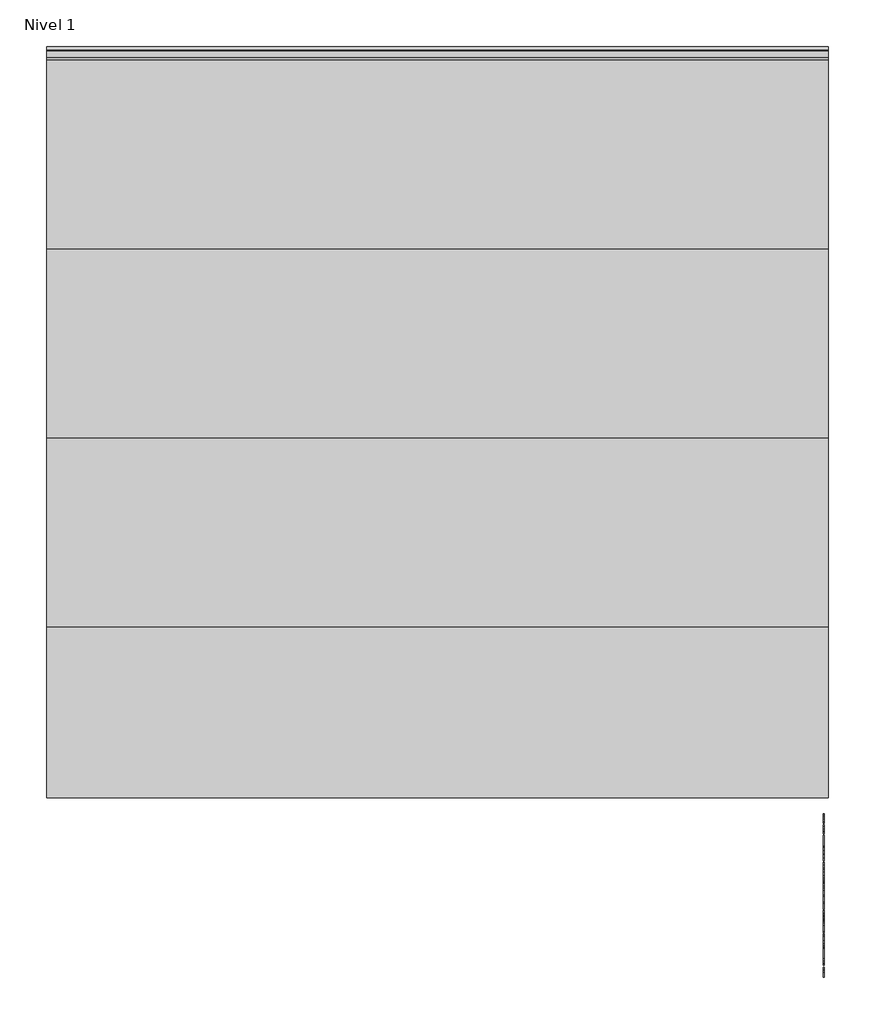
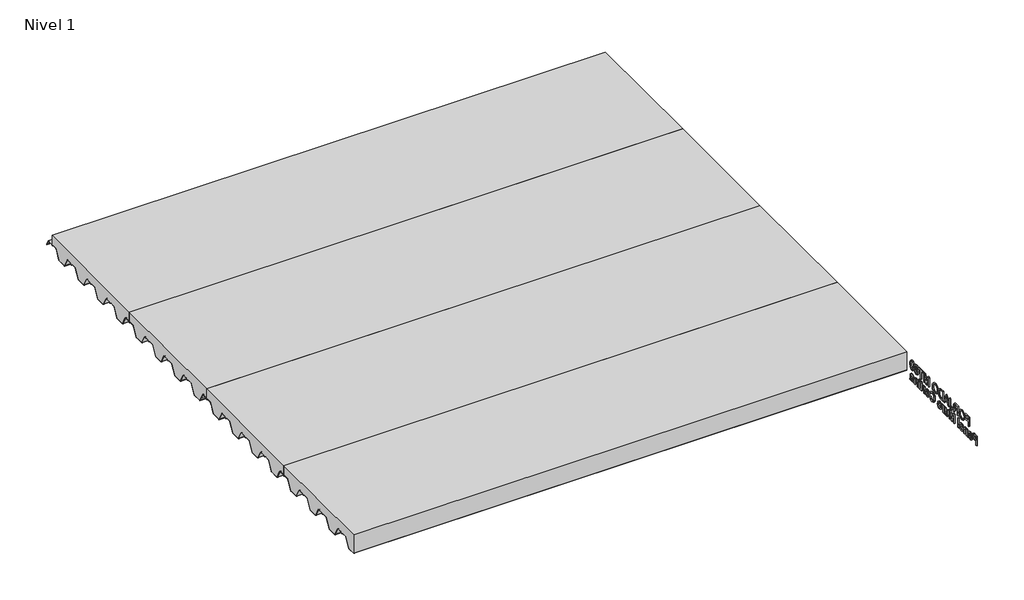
# One storey: 4 plates, 1 proxy.
"""IFC4 building model written with IfcOpenShell, lengths in millimetres."""

from ifc_helpers import new_model, si_unit, frame, origin, place, context, project, spatial, polyline, outline, extrude, transform, mapped, element, save
from components import plate_d779454f, plate_5dbb44cf

model = new_model("IFC4")

# Units and contexts
model_context = context("Model", 3, world=origin())
ifc_project = project(units=[si_unit("LENGTHUNIT", "METRE", prefix="MILLI")], contexts=[model_context])

# Site, building, storey
site = spatial("IfcSite", under=ifc_project)
building = spatial("IfcBuilding", under=site)
storey = spatial("IfcBuildingStorey", under=building, Name="Nivel 1", Elevation=0.0)

# Proxy
placement = place(None, origin())
element("IfcBuildingElementProxy", 1, Name="100mm Arial", ObjectType="100mm Arial", at=placement, inside=storey, context=model_context, shape_type="SweptSolid", body=[
    extrude(outline(polyline([(14753.317825, -1467.141573), (14753.317825, -1406.8677869), (14793.814275, -1406.8677869), (14793.814275, -1414.4020102), (14760.8520482, -1414.4020102), (14760.8520482, -1432.2957904), (14789.1053854, -1432.2957904), (14789.1053854, -1439.8300137), (14760.8520482, -1439.8300137), (14760.8520482, -1467.141573), (14753.317825, -1467.141573)])), frame((9557.0230098, 0.0, 0.0), z_axis=(1.0, 0.0, 0.0), x_axis=(0.0, 1.0, 0.0)), (0.0, 0.0, 1.0), 5.0),
    extrude(outline(polyline([(14801.3484982, -1437.7993051), (14803.3571339, -1424.4709404), (14809.383041, -1414.3872949), (14818.5837697, -1408.0413305), (14830.1168703, -1405.926009), (14845.1117404, -1409.8991346), (14855.294714, -1420.9797403), (14858.7969506, -1437.1076869), (14855.110773, -1453.4563628), (14844.6629244, -1464.3751004), (14830.0727244, -1468.0833509), (14814.9159862, -1463.9851455), (14804.7918737, -1452.8015329), (14801.3484982, -1437.7993051)]), holes=[polyline([(14808.8827215, -1437.8728815), (14810.3891983, -1447.301697), (14814.9086286, -1454.4864324), (14821.7015696, -1459.0334539), (14830.0285786, -1460.5491277), (14838.4769886, -1459.0187386), (14845.2809661, -1454.4275713), (14849.767287, -1447.0221067), (14851.2627274, -1437.0488258), (14848.7022687, -1424.6144144), (14841.2195489, -1416.3812153), (14830.1610161, -1413.4602323), (14815.166146, -1419.0888268), (14810.4535776, -1426.5991378), (14808.8827215, -1437.8728815)])]), frame((9557.0230098, 0.0, 0.0), z_axis=(1.0, 0.0, 0.0), x_axis=(0.0, 1.0, 0.0)), (0.0, 0.0, 1.0), 5.0),
    extrude(outline(polyline([(14869.1565076, -1467.141573), (14869.1565076, -1406.8677869), (14895.1289765, -1406.8677869), (14907.1881483, -1408.4938254), (14913.7805936, -1414.2474998), (14916.245403, -1423.3636156), (14912.1619128, -1434.2234921), (14899.5435604, -1439.8300137), (14903.8257068, -1443.05266), (14909.9325479, -1450.8076124), (14919.9830841, -1467.141573), (14911.2274926, -1467.141573), (14903.3842484, -1454.6483005), (14897.7188657, -1446.3783132), (14893.7383825, -1442.4714064), (14890.1552119, -1441.0366667), (14885.7847738, -1440.7717916), (14876.6907309, -1440.7717916), (14876.6907309, -1467.141573), (14869.1565076, -1467.141573)]), holes=[polyline([(14876.6907309, -1433.2375684), (14893.5544415, -1433.2375684), (14902.1555226, -1432.1707106), (14907.0409955, -1428.7567657), (14908.7111797, -1423.6432059), (14905.5253216, -1417.0066147), (14895.4527126, -1414.4020102), (14876.6907309, -1414.4020102), (14876.6907309, -1433.2375684)])]), frame((9557.0230098, 0.0, 0.0), z_axis=(1.0, 0.0, 0.0), x_axis=(0.0, 1.0, 0.0)), (0.0, 0.0, 1.0), 5.0),
    extrude(outline(polyline([(14925.6631821, -1450.2190013), (14933.1974053, -1449.2477928), (14935.7725793, -1458.1505371), (14942.1295802, -1460.5491277), (14947.2872857, -1459.1879643), (14950.2744875, -1455.4797138), (14951.0911856, -1448.0117093), (14951.0911856, -1406.8677869), (14958.6254088, -1406.8677869), (14958.6254088, -1447.8792718), (14956.8080718, -1459.5852768), (14951.0396821, -1465.9054895), (14941.7764134, -1468.0833509), (14929.6951687, -1463.587833), (14925.6631821, -1450.2190013)])), frame((9557.0230098, 0.0, 0.0), z_axis=(1.0, 0.0, 0.0), x_axis=(0.0, 1.0, 0.0)), (0.0, 0.0, 1.0), 5.0),
    extrude(outline(polyline([(14964.7911111, -1467.141573), (14988.8505935, -1406.8677869), (14995.2664555, -1406.8677869), (15019.325938, -1467.141573), (15011.3649717, -1467.141573), (15004.4635054, -1448.3060149), (14979.6388284, -1448.3060149), (14972.7520774, -1467.141573), (14964.7911111, -1467.141573)]), holes=[polyline([(14982.405301, -1440.7717916), (15001.7117481, -1440.7717916), (14996.2818099, -1425.9535049), (14992.0585245, -1414.4020102), (14988.3061282, -1424.6585602), (14982.405301, -1440.7717916)])]), frame((9557.0230098, 0.0, 0.0), z_axis=(1.0, 0.0, 0.0), x_axis=(0.0, 1.0, 0.0)), (0.0, 0.0, 1.0), 5.0),
    extrude(outline(polyline([(15027.3751961, -1467.141573), (15027.3751961, -1406.8677869), (15048.1678865, -1406.8677869), (15058.924756, -1407.7359884), (15067.7833544, -1412.0475654), (15074.9202651, -1422.3482613), (15077.2894252, -1436.6809438), (15075.6854597, -1448.8431226), (15071.5651813, -1457.620787), (15066.0616667, -1463.0875134), (15058.8585372, -1466.1115034), (15049.1685255, -1467.141573), (15027.3751961, -1467.141573)]), holes=[polyline([(15034.9094193, -1459.6073498), (15048.2414629, -1459.6073498), (15057.9388322, -1458.5184191), (15063.5306386, -1455.4429256), (15068.1144482, -1447.9602058), (15069.7552019, -1436.5632216), (15066.5399133, -1422.2894002), (15058.7187421, -1415.6086631), (15048.0354489, -1414.4020102), (15034.9094193, -1414.4020102), (15034.9094193, -1459.6073498)])]), frame((9557.0230098, 0.0, 0.0), z_axis=(1.0, 0.0, 0.0), x_axis=(0.0, 1.0, 0.0)), (0.0, 0.0, 1.0), 5.0),
    extrude(outline(polyline([(15084.8236485, -1437.7993051), (15086.8322841, -1424.4709404), (15092.8581912, -1414.3872949), (15102.0589199, -1408.0413305), (15113.5920205, -1405.926009), (15128.5868906, -1409.8991346), (15138.7698642, -1420.9797403), (15142.2721008, -1437.1076869), (15138.5859232, -1453.4563628), (15128.1380746, -1464.3751004), (15113.5478746, -1468.0833509), (15098.3911364, -1463.9851455), (15088.2670239, -1452.8015329), (15084.8236485, -1437.7993051)]), holes=[polyline([(15092.3578717, -1437.8728815), (15093.8643485, -1447.301697), (15098.3837788, -1454.4864324), (15105.1767198, -1459.0334539), (15113.5037288, -1460.5491277), (15121.9521388, -1459.0187386), (15128.7561163, -1454.4275713), (15133.2424372, -1447.0221067), (15134.7378776, -1437.0488258), (15132.1774189, -1424.6144144), (15124.6946991, -1416.3812153), (15113.6361663, -1413.4602323), (15098.6412962, -1419.0888268), (15093.9287278, -1426.5991378), (15092.3578717, -1437.8728815)])]), frame((9557.0230098, 0.0, 0.0), z_axis=(1.0, 0.0, 0.0), x_axis=(0.0, 1.0, 0.0)), (0.0, 0.0, 1.0), 5.0),
    extrude(outline(polyline([(15176.1761055, -1467.141573), (15176.1761055, -1406.8677869), (15189.140267, -1406.8677869), (15201.4716715, -1449.3507997), (15203.9585538, -1458.2241135), (15206.65145, -1448.6150358), (15218.7768405, -1406.8677869), (15231.741002, -1406.8677869), (15231.741002, -1467.141573), (15224.2067788, -1467.141573), (15224.2067788, -1414.4020102), (15209.0647559, -1467.141573), (15198.8523517, -1467.141573), (15183.7103288, -1414.4020102), (15183.7103288, -1467.141573), (15176.1761055, -1467.141573)])), frame((9557.0230098, 0.0, 0.0), z_axis=(1.0, 0.0, 0.0), x_axis=(0.0, 1.0, 0.0)), (0.0, 0.0, 1.0), 5.0),
    extrude(outline(polyline([(15259.9943393, -1467.141573), (15259.9943393, -1414.4020102), (15240.2170032, -1414.4020102), (15240.2170032, -1406.8677869), (15287.3058986, -1406.8677869), (15287.3058986, -1414.4020102), (15267.5285625, -1414.4020102), (15267.5285625, -1467.141573), (15259.9943393, -1467.141573)])), frame((9557.0230098, 0.0, 0.0), z_axis=(1.0, 0.0, 0.0), x_axis=(0.0, 1.0, 0.0)), (0.0, 0.0, 1.0), 5.0),
    extrude(outline(polyline([(15331.5694603, -1422.8780114), (15324.035237, -1423.8197893), (15321.1804727, -1417.5363648), (15313.6315342, -1414.4020102), (15306.8330749, -1416.2267049), (15301.6900846, -1423.0766676), (15299.5490114, -1436.5043605), (15306.1929602, -1430.4931687), (15314.4261593, -1428.5286788), (15327.2284527, -1433.8997559), (15332.5112382, -1447.7762648), (15330.0243559, -1458.17261), (15323.1817508, -1465.5302499), (15313.307798, -1468.0833509), (15304.7600599, -1466.3910938), (15297.9524035, -1461.3143222), (15293.499192, -1452.3527168), (15292.0147881, -1439.005958), (15293.6628995, -1424.0000515), (15298.6072335, -1413.7398226), (15305.3578681, -1408.5857959), (15314.1024231, -1406.8677869), (15326.0070845, -1411.1205028), (15331.5694603, -1422.8780114)]), holes=[polyline([(15299.5490114, -1447.6585426), (15301.2927721, -1454.1847692), (15305.9280852, -1458.9230893), (15312.7191868, -1460.5491277), (15321.5998582, -1457.1793286), (15324.9770149, -1448.0264246), (15321.644004, -1439.2634754), (15312.4101659, -1436.0629021), (15303.2940501, -1439.2634754), (15299.5490114, -1447.6585426)])]), frame((9557.0230098, 0.0, 0.0), z_axis=(1.0, 0.0, 0.0), x_axis=(0.0, 1.0, 0.0)), (0.0, 0.0, 1.0), 5.0),
    extrude(outline(polyline([(15339.1036835, -1437.4902842), (15341.3183331, -1420.148327), (15347.8960632, -1410.1492943), (15358.8810196, -1406.8677869), (15367.6807569, -1408.8102039), (15373.7581675, -1414.4093678), (15377.2898346, -1423.3268274), (15378.6583556, -1437.4902842), (15376.4657789, -1454.7586651), (15369.9101218, -1464.7797706), (15358.8810196, -1468.0833509), (15351.0524907, -1466.6486112), (15345.1075177, -1462.3443918), (15340.6046421, -1452.1503817), (15339.1036835, -1437.4902842)]), holes=[polyline([(15346.6379068, -1437.4755689), (15350.1695739, -1456.1860472), (15358.8810196, -1460.5491277), (15367.5924652, -1456.1713319), (15371.1241324, -1437.4755689), (15367.7101875, -1418.9784622), (15358.7927279, -1414.4020102), (15350.2872962, -1418.4339969), (15346.6379068, -1437.4755689)])]), frame((9557.0230098, 0.0, 0.0), z_axis=(1.0, 0.0, 0.0), x_axis=(0.0, 1.0, 0.0)), (0.0, 0.0, 1.0), 5.0),
    extrude(outline(polyline([(14669.4995912, -1540.3264637), (14669.4995912, -1480.0526776), (14691.8373859, -1480.0526776), (14700.8431372, -1480.6265736), (14708.1639889, -1483.4445496), (14712.9096666, -1489.2718004), (14714.7049307, -1497.4902842), (14709.856246, -1510.5133068), (14703.0559474, -1514.5085053), (14692.3524207, -1515.8402381), (14677.0338144, -1515.8402381), (14677.0338144, -1540.3264637), (14669.4995912, -1540.3264637)]), holes=[polyline([(14677.0338144, -1508.3060149), (14692.7938791, -1508.3060149), (14703.8892001, -1505.5395423), (14707.1707075, -1497.7551593), (14705.2356482, -1491.5158806), (14700.151519, -1488.1019357), (14692.6172958, -1487.5869009), (14677.0338144, -1487.5869009), (14677.0338144, -1508.3060149)])]), frame((9557.0230098, 0.0, 0.0), z_axis=(1.0, 0.0, 0.0), x_axis=(0.0, 1.0, 0.0)), (0.0, 0.0, 1.0), 5.0),
    extrude(outline(polyline([(14752.3760471, -1534.6757963), (14745.0699106, -1539.7819984), (14736.9985797, -1541.2682416), (14726.0577691, -1537.6924287), (14722.239154, -1528.5542399), (14723.6812514, -1522.5945516), (14727.470436, -1518.2682593), (14732.7458638, -1515.7960923), (14739.2647327, -1514.6630158), (14752.3319012, -1512.0731265), (14752.3760471, -1510.3955846), (14750.3011926, -1504.8332088), (14741.9723442, -1502.6553474), (14734.3498293, -1504.1048025), (14730.7151552, -1509.2477928), (14723.1809319, -1508.3060149), (14726.4403664, -1500.948375), (14733.0033812, -1496.636798), (14742.9435527, -1495.1211242), (14752.0743838, -1496.4602146), (14757.2320894, -1499.8226561), (14759.5423883, -1504.9362158), (14759.9102703, -1511.5286612), (14759.9102703, -1520.9022944), (14760.2928676, -1533.9915358), (14761.7938261, -1540.3264637), (14754.2596029, -1540.3264637), (14752.3760471, -1534.6757963)]), holes=[polyline([(14752.3760471, -1519.6073498), (14740.2212259, -1521.9176487), (14733.7391452, -1523.1390169), (14730.8034469, -1525.1255797), (14729.7733773, -1528.0244898), (14732.0174574, -1532.1006223), (14738.6025452, -1533.7340184), (14746.2250601, -1531.9313966), (14751.1399635, -1527.5683161), (14752.3319012, -1521.7410653), (14752.3760471, -1519.6073498)])]), frame((9557.0230098, 0.0, 0.0), z_axis=(1.0, 0.0, 0.0), x_axis=(0.0, 1.0, 0.0)), (0.0, 0.0, 1.0), 5.0),
    extrude(outline(polyline([(14770.2698273, -1540.3264637), (14770.2698273, -1496.0629021), (14777.8040506, -1496.0629021), (14777.8040506, -1502.2433196), (14783.5650826, -1496.901673), (14791.4303997, -1495.1211242), (14798.5452374, -1496.555864), (14803.4012798, -1500.3229756), (14805.6600752, -1505.8632784), (14806.0573878, -1513.1473419), (14806.0573878, -1540.3264637), (14798.5231645, -1540.3264637), (14798.5231645, -1514.1626962), (14797.654963, -1507.4966745), (14794.5868272, -1503.972365), (14789.4144063, -1502.6553474), (14781.2400684, -1505.6131187), (14777.8040506, -1516.8408772), (14777.8040506, -1540.3264637), (14770.2698273, -1540.3264637)])), frame((9557.0230098, 0.0, 0.0), z_axis=(1.0, 0.0, 0.0), x_axis=(0.0, 1.0, 0.0)), (0.0, 0.0, 1.0), 5.0),
    extrude(outline(polyline([(14847.407324, -1527.141573), (14854.7943945, -1528.0833509), (14847.8855706, -1537.8101509), (14835.0170584, -1541.2682416), (14826.1768541, -1539.7764802), (14819.374716, -1535.3011957), (14815.0373873, -1528.133015), (14813.591611, -1518.5625649), (14815.0521026, -1508.6702181), (14819.4335771, -1501.2721111), (14826.1437447, -1496.6588709), (14834.5903153, -1495.1211242), (14842.7738503, -1496.6551921), (14849.3129528, -1501.2573959), (14853.6006174, -1508.6407875), (14855.029839, -1518.5184191), (14854.9856931, -1520.5491277), (14821.1258343, -1520.5491277), (14825.4594842, -1530.3347887), (14835.1642112, -1533.7340184), (14842.5512817, -1532.1594834), (14847.407324, -1527.141573)]), holes=[polyline([(14821.1258343, -1513.0149044), (14847.4956157, -1513.0149044), (14844.4789834, -1506.1870146), (14834.5608848, -1502.6553474), (14825.2829009, -1505.4733235), (14821.1258343, -1513.0149044)])]), frame((9557.0230098, 0.0, 0.0), z_axis=(1.0, 0.0, 0.0), x_axis=(0.0, 1.0, 0.0)), (0.0, 0.0, 1.0), 5.0),
    extrude(outline(polyline([(9562.0230098, 14870.0982855), (9562.0230098, 14862.5640622), (9557.0230098, 14862.5640622), (9557.0230098, 14870.0982855), (9562.0230098, 14870.0982855)])), frame((0.0, 0.0, -1540.3264637), z_axis=(0.0, 0.0, 1.0), x_axis=(1.0, 0.0, 0.0)), (0.0, 0.0, 1.0), 60.2737861),
    extrude(outline(polyline([(14905.885846, -1540.3264637), (14905.885846, -1480.0526776), (14918.8500075, -1480.0526776), (14931.181412, -1522.5356905), (14933.6682943, -1531.4090042), (14936.3611905, -1521.7999265), (14948.486581, -1480.0526776), (14961.4507425, -1480.0526776), (14961.4507425, -1540.3264637), (14953.9165193, -1540.3264637), (14953.9165193, -1487.5869009), (14938.7744964, -1540.3264637), (14928.5620922, -1540.3264637), (14913.4200693, -1487.5869009), (14913.4200693, -1540.3264637), (14905.885846, -1540.3264637)])), frame((9557.0230098, 0.0, 0.0), z_axis=(1.0, 0.0, 0.0), x_axis=(0.0, 1.0, 0.0)), (0.0, 0.0, 1.0), 5.0),
    extrude(outline(polyline([(15001.9471926, -1540.3264637), (15001.9471926, -1532.7186641), (14996.0463654, -1539.1308473), (14988.350274, -1541.2682416), (14981.2648668, -1539.7672831), (14976.3793939, -1536.0001715), (14974.1353137, -1530.452511), (14973.6938553, -1523.4480378), (14973.6938553, -1496.0629021), (14981.2280786, -1496.0629021), (14981.2280786, -1519.9016554), (14981.6842523, -1527.5830314), (14984.6640964, -1532.0932647), (14990.2779757, -1533.7340184), (14996.5687578, -1532.0564765), (15000.7258244, -1527.4873821), (15001.9471926, -1519.092315), (15001.9471926, -1496.0629021), (15009.4814158, -1496.0629021), (15009.4814158, -1540.3264637), (15001.9471926, -1540.3264637)])), frame((9557.0230098, 0.0, 0.0), z_axis=(1.0, 0.0, 0.0), x_axis=(0.0, 1.0, 0.0)), (0.0, 0.0, 1.0), 5.0),
    extrude(outline(polyline([(15019.8409728, -1540.3264637), (15019.8409728, -1496.0629021), (15026.4334182, -1496.0629021), (15026.4334182, -1502.6112016), (15031.1128772, -1496.5779369), (15035.8217667, -1495.1211242), (15043.3854205, -1497.4461384), (15040.8691077, -1504.2004518), (15035.5716069, -1502.6553474), (15031.3115334, -1504.1415907), (15028.5965643, -1508.261869), (15027.3751961, -1517.0616064), (15027.3751961, -1540.3264637), (15019.8409728, -1540.3264637)])), frame((9557.0230098, 0.0, 0.0), z_axis=(1.0, 0.0, 0.0), x_axis=(0.0, 1.0, 0.0)), (0.0, 0.0, 1.0), 5.0),
    extrude(outline(polyline([(15046.2107542, -1518.1946829), (15047.8404715, -1507.5224262), (15052.7296232, -1500.0213123), (15066.0028056, -1495.1211242), (15073.9177867, -1496.6128857), (15080.2398388, -1501.0881701), (15084.3840295, -1508.1938109), (15085.7654264, -1517.5766412), (15083.3226899, -1530.9822611), (15076.2078521, -1538.5679878), (15066.0028056, -1541.2682416), (15057.9921751, -1539.7819984), (15051.6774807, -1535.3232686), (15047.5774359, -1528.0686357), (15046.2107542, -1518.1946829)]), holes=[polyline([(15053.7449775, -1518.1799676), (15057.2324988, -1529.8565422), (15066.0028056, -1533.7340184), (15074.7436818, -1529.8344692), (15078.2312031, -1517.9445232), (15074.7216089, -1506.5328237), (15066.0028056, -1502.6553474), (15057.2324988, -1506.5181084), (15053.7449775, -1518.1799676)])]), frame((9557.0230098, 0.0, 0.0), z_axis=(1.0, 0.0, 0.0), x_axis=(0.0, 1.0, 0.0)), (0.0, 0.0, 1.0), 5.0),
    extrude(outline(polyline([(15161.107659, -1518.9010163), (15168.6418822, -1520.8434333), (15159.7097074, -1536.0369597), (15143.9349274, -1541.2682416), (15128.2557968, -1537.3098314), (15119.0587469, -1525.8466284), (15115.9023194, -1509.733397), (15119.4707748, -1493.3552906), (15129.6169602, -1482.7382162), (15144.0967955, -1479.1108997), (15159.187315, -1483.805074), (15167.7001043, -1497.0193953), (15160.1658811, -1498.8146594), (15153.9854635, -1489.5513908), (15143.8024899, -1486.645123), (15132.0155508, -1489.8677693), (15125.3568867, -1498.5203538), (15123.4365427, -1509.7186817), (15125.7100534, -1522.6975585), (15132.788103, -1530.9896187), (15143.1844482, -1533.7340184), (15154.7138699, -1529.9963373), (15161.107659, -1518.9010163)])), frame((9557.0230098, 0.0, 0.0), z_axis=(1.0, 0.0, 0.0), x_axis=(0.0, 1.0, 0.0)), (0.0, 0.0, 1.0), 5.0),
    extrude(outline(polyline([(15176.1761055, -1518.1946829), (15177.8058227, -1507.5224262), (15182.6949744, -1500.0213123), (15195.9681568, -1495.1211242), (15203.883138, -1496.6128857), (15210.20519, -1501.0881701), (15214.3493807, -1508.1938109), (15215.7307776, -1517.5766412), (15213.2880412, -1530.9822611), (15206.1732034, -1538.5679878), (15195.9681568, -1541.2682416), (15187.9575264, -1539.7819984), (15181.6428319, -1535.3232686), (15177.5427871, -1528.0686357), (15176.1761055, -1518.1946829)]), holes=[polyline([(15183.7103288, -1518.1799676), (15187.1978501, -1529.8565422), (15195.9681568, -1533.7340184), (15204.709033, -1529.8344692), (15208.1965544, -1517.9445232), (15204.6869601, -1506.5328237), (15195.9681568, -1502.6553474), (15187.1978501, -1506.5181084), (15183.7103288, -1518.1799676)])]), frame((9557.0230098, 0.0, 0.0), z_axis=(1.0, 0.0, 0.0), x_axis=(0.0, 1.0, 0.0)), (0.0, 0.0, 1.0), 5.0),
    extrude(outline(polyline([(15224.2067788, -1540.3264637), (15224.2067788, -1496.0629021), (15230.7992241, -1496.0629021), (15230.7992241, -1502.6112016), (15235.4786831, -1496.5779369), (15240.1875727, -1495.1211242), (15247.7512265, -1497.4461384), (15245.2349136, -1504.2004518), (15239.9374129, -1502.6553474), (15235.6773394, -1504.1415907), (15232.9623703, -1508.261869), (15231.741002, -1517.0616064), (15231.741002, -1540.3264637), (15224.2067788, -1540.3264637)])), frame((9557.0230098, 0.0, 0.0), z_axis=(1.0, 0.0, 0.0), x_axis=(0.0, 1.0, 0.0)), (0.0, 0.0, 1.0), 5.0),
    extrude(outline(polyline([(15268.4703404, -1534.0430393), (15269.4121184, -1540.5471929), (15263.7761662, -1541.2682416), (15257.4633111, -1540.0174429), (15254.3142413, -1536.7359355), (15253.4018939, -1528.1863579), (15253.4018939, -1503.5971253), (15247.7512265, -1503.5971253), (15247.7512265, -1496.0629021), (15253.4018939, -1496.0629021), (15253.4018939, -1485.3060325), (15260.9361172, -1480.8767333), (15260.9361172, -1496.0629021), (15268.4703404, -1496.0629021), (15268.4703404, -1503.5971253), (15260.9361172, -1503.5971253), (15260.9361172, -1527.9656287), (15261.3334297, -1531.8504626), (15262.6210167, -1533.2263412), (15265.188833, -1533.7340184), (15268.4703404, -1534.0430393)])), frame((9557.0230098, 0.0, 0.0), z_axis=(1.0, 0.0, 0.0), x_axis=(0.0, 1.0, 0.0)), (0.0, 0.0, 1.0), 5.0),
    extrude(outline(polyline([(9562.0230098, 15283.538787), (9562.0230098, 15276.0045637), (9557.0230098, 15276.0045637), (9557.0230098, 15283.538787), (9562.0230098, 15283.538787)])), frame((0.0, 0.0, -1540.3264637), z_axis=(0.0, 0.0, 1.0), x_axis=(1.0, 0.0, 0.0)), (0.0, 0.0, 1.0), 44.2635617),
    extrude(outline(polyline([(9562.0230098, 15283.538787), (9562.0230098, 15276.0045637), (9557.0230098, 15276.0045637), (9557.0230098, 15283.538787), (9562.0230098, 15283.538787)])), frame((0.0, 0.0, -1487.5869009), z_axis=(0.0, 0.0, 1.0), x_axis=(1.0, 0.0, 0.0)), (0.0, 0.0, 1.0), 7.5342233),
    extrude(outline(polyline([(15294.8401219, -1540.3264637), (15294.8401219, -1496.0629021), (15302.3743451, -1496.0629021), (15302.3743451, -1502.2433196), (15308.1353772, -1496.901673), (15316.0006942, -1495.1211242), (15323.115532, -1496.555864), (15327.9715743, -1500.3229756), (15330.2303698, -1505.8632784), (15330.6276823, -1513.1473419), (15330.6276823, -1540.3264637), (15323.0934591, -1540.3264637), (15323.0934591, -1514.1626962), (15322.2252576, -1507.4966745), (15319.1571217, -1503.972365), (15313.9847009, -1502.6553474), (15305.810363, -1505.6131187), (15302.3743451, -1516.8408772), (15302.3743451, -1540.3264637), (15294.8401219, -1540.3264637)])), frame((9557.0230098, 0.0, 0.0), z_axis=(1.0, 0.0, 0.0), x_axis=(0.0, 1.0, 0.0)), (0.0, 0.0, 1.0), 5.0),
    extrude(outline(polyline([(15369.2405766, -1534.6757963), (15361.9344401, -1539.7819984), (15353.8631092, -1541.2682416), (15342.9222986, -1537.6924287), (15339.1036835, -1528.5542399), (15340.5457809, -1522.5945516), (15344.3349655, -1518.2682593), (15349.6103933, -1515.7960923), (15356.1292623, -1514.6630158), (15369.1964307, -1512.0731265), (15369.2405766, -1510.3955846), (15367.1657221, -1504.8332088), (15358.8368737, -1502.6553474), (15351.2143588, -1504.1048025), (15347.5796847, -1509.2477928), (15340.0454614, -1508.3060149), (15343.3048959, -1500.948375), (15349.8679107, -1496.636798), (15359.8080822, -1495.1211242), (15368.9389133, -1496.4602146), (15374.0966189, -1499.8226561), (15376.4069178, -1504.9362158), (15376.7747998, -1511.5286612), (15376.7747998, -1520.9022944), (15377.1573971, -1533.9915358), (15378.6583556, -1540.3264637), (15371.1241324, -1540.3264637), (15369.2405766, -1534.6757963)]), holes=[polyline([(15369.2405766, -1519.6073498), (15357.0857554, -1521.9176487), (15350.6036747, -1523.1390169), (15347.6679764, -1525.1255797), (15346.6379068, -1528.0244898), (15348.8819869, -1532.1006223), (15355.4670747, -1533.7340184), (15363.0895896, -1531.9313966), (15368.0044931, -1527.5683161), (15369.1964307, -1521.7410653), (15369.2405766, -1519.6073498)])]), frame((9557.0230098, 0.0, 0.0), z_axis=(1.0, 0.0, 0.0), x_axis=(0.0, 1.0, 0.0)), (0.0, 0.0, 1.0), 5.0),
])

# Plates
plate_shape = plate_d779454f(model_context)
element("IfcPlate", 2, ObjectType="HIANSA- H20.F10.001 - FORJADO COLABORANTE - MT-60 - Panel de Muro Cortina : -", at=placement, inside=storey, context=model_context, shape_type="MappedRepresentation", body=[
    mapped(plate_shape, transform((9579.0356399, 18238.3330794, -1529.5962409), x_axis=(0.0, -1.0, 0.0), y_axis=(0.0, 0.0, 1.0), z_axis=(-1.0, 0.0, 0.0))),
])
element("IfcPlate", 3, ObjectType="HIANSA- H20.F10.001 - FORJADO COLABORANTE - MT-60 - Panel de Muro Cortina : -", at=placement, inside=storey, context=model_context, shape_type="MappedRepresentation", body=[
    mapped(plate_shape, transform((9579.0356399, 17418.3330793, -1529.5962409), x_axis=(0.0, -1.0, 0.0), y_axis=(0.0, 0.0, 1.0), z_axis=(-1.0, 0.0, 0.0))),
])
element("IfcPlate", 4, ObjectType="HIANSA- H20.F10.001 - FORJADO COLABORANTE - MT-60 - Panel de Muro Cortina : -", at=placement, inside=storey, context=model_context, shape_type="MappedRepresentation", body=[
    mapped(plate_shape, transform((9579.0356399, 16598.3330793, -1529.5962409), x_axis=(0.0, -1.0, 0.0), y_axis=(0.0, 0.0, 1.0), z_axis=(-1.0, 0.0, 0.0))),
])
plate_2_shape = plate_5dbb44cf(model_context)
element("IfcPlate", 5, ObjectType="HIANSA- H20.F10.001 - FORJADO COLABORANTE - MT-60 - Panel de Muro Cortina : -", at=placement, inside=storey, context=model_context, shape_type="MappedRepresentation", body=[
    mapped(plate_2_shape, transform((9579.0356399, 15818.3330794, -1529.5962409), x_axis=(0.0, -1.0, 0.0), y_axis=(0.0, 0.0, 1.0), z_axis=(-1.0, 0.0, 0.0))),
])

save(model, "model.ifc")
